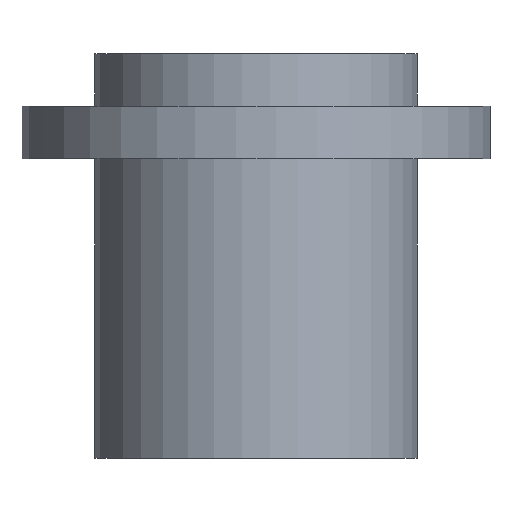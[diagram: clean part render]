
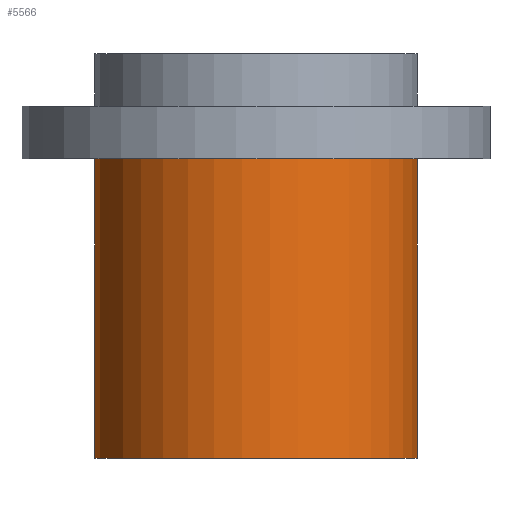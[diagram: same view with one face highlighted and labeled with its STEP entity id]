
A CAD part, front view. The second image highlights one B-rep face of the part: STEP entity #5566.
In plain terms, the highlighted cylindrical face has radius 40 mm (diameter 80 mm), a full revolution.
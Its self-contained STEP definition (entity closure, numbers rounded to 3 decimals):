
#81=CYLINDRICAL_SURFACE('',#5923,40.);
#96=CIRCLE('',#5904,40.);
#111=CIRCLE('',#5924,40.);
#501=ORIENTED_EDGE('',*,*,#2103,.T.);
#502=ORIENTED_EDGE('',*,*,#1958,.T.);
#1958=EDGE_CURVE('',#2759,#2759,#96,.F.);
#2103=EDGE_CURVE('',#2904,#2904,#111,.T.);
#2759=VERTEX_POINT('',#8065);
#2904=VERTEX_POINT('',#8833);
#4546=EDGE_LOOP('',(#501));
#4547=EDGE_LOOP('',(#502));
#4953=FACE_BOUND('',#4546,.T.);
#4954=FACE_BOUND('',#4547,.T.);
#5566=ADVANCED_FACE('',(#4953,#4954),#81,.T.);
#5904=AXIS2_PLACEMENT_3D('',#8064,#6290,#6291);
#5923=AXIS2_PLACEMENT_3D('',#8831,#6432,#6433);
#5924=AXIS2_PLACEMENT_3D('',#8832,#6434,#6435);
#6290=DIRECTION('',(0.,0.,1.));
#6291=DIRECTION('',(0.707,-0.707,0.));
#6432=DIRECTION('',(0.,0.,1.));
#6433=DIRECTION('',(0.707,-0.707,0.));
#6434=DIRECTION('',(0.,0.,1.));
#6435=DIRECTION('',(0.707,-0.707,0.));
#8064=CARTESIAN_POINT('',(0.,0.,-13.));
#8065=CARTESIAN_POINT('',(28.284,-28.284,-13.));
#8831=CARTESIAN_POINT('',(0.,0.,-87.));
#8832=CARTESIAN_POINT('',(0.,0.,-87.));
#8833=CARTESIAN_POINT('',(28.284,-28.284,-87.));
